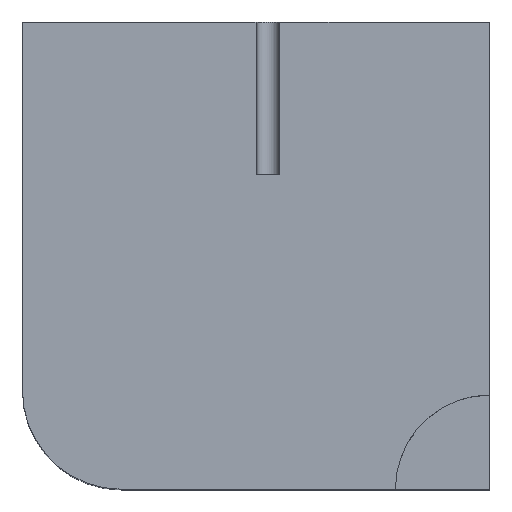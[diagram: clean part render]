
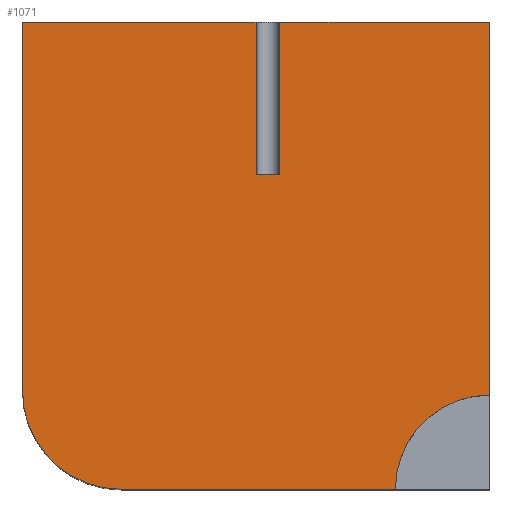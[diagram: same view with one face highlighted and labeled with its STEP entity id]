
A CAD part, top view. The second image highlights one B-rep face of the part: STEP entity #1071.
In plain terms, the highlighted planar face has unit normal (0, 0, 1).
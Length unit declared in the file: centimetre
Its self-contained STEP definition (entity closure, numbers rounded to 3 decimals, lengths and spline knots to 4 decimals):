
#10 = VECTOR ( 'NONE', #549, 100. ) ;
#21 = VERTEX_POINT ( 'NONE', #698 ) ;
#37 = LINE ( 'NONE', #1153, #621 ) ;
#56 = ORIENTED_EDGE ( 'NONE', *, *, #312, .T. ) ;
#93 = FACE_OUTER_BOUND ( 'NONE', #148, .T. ) ;
#108 = VECTOR ( 'NONE', #509, 100. ) ;
#125 = ORIENTED_EDGE ( 'NONE', *, *, #525, .T. ) ;
#131 = VERTEX_POINT ( 'NONE', #1120 ) ;
#132 = DIRECTION ( 'NONE',  ( 1., 0., 0. ) ) ;
#148 = EDGE_LOOP ( 'NONE', ( #224, #125, #1141, #1003, #1023, #1093, #685, #804, #56, #993 ) ) ;
#149 = CARTESIAN_POINT ( 'NONE',  ( 0., 673.7985, 1000. ) ) ;
#188 = LINE ( 'NONE', #283, #10 ) ;
#194 = CARTESIAN_POINT ( 'NONE',  ( 1000., 1000., 1000. ) ) ;
#198 = EDGE_CURVE ( 'NONE', #131, #1016, #232, .T. ) ;
#204 = VECTOR ( 'NONE', #788, 100. ) ;
#224 = ORIENTED_EDGE ( 'NONE', *, *, #649, .F. ) ;
#232 = LINE ( 'NONE', #1042, #108 ) ;
#262 = DIRECTION ( 'NONE',  ( 1., 0., 0. ) ) ;
#278 = EDGE_CURVE ( 'NONE', #1051, #878, #37, .T. ) ;
#283 = CARTESIAN_POINT ( 'NONE',  ( 0., 1000., 1000. ) ) ;
#303 = EDGE_CURVE ( 'NONE', #1164, #878, #763, .T. ) ;
#312 = EDGE_CURVE ( 'NONE', #1016, #590, #657, .T. ) ;
#313 = DIRECTION ( 'NONE',  ( -1., 0., 0. ) ) ;
#338 = CARTESIAN_POINT ( 'NONE',  ( 550.9847, 673.7985, 1000. ) ) ;
#353 = EDGE_CURVE ( 'NONE', #590, #574, #794, .T. ) ;
#401 = LINE ( 'NONE', #764, #992 ) ;
#420 = DIRECTION ( 'NONE',  ( 0., 0., 1. ) ) ;
#429 = VECTOR ( 'NONE', #313, 100. ) ;
#455 = VERTEX_POINT ( 'NONE', #1083 ) ;
#456 = PLANE ( 'NONE',  #931 ) ;
#509 = DIRECTION ( 'NONE',  ( 0., -1., 0. ) ) ;
#511 = DIRECTION ( 'NONE',  ( -1., 0., 0. ) ) ;
#525 = EDGE_CURVE ( 'NONE', #455, #1164, #1182, .T. ) ;
#549 = DIRECTION ( 'NONE',  ( -1., 0., 0. ) ) ;
#568 = CARTESIAN_POINT ( 'NONE',  ( 500., 673.7985, 1000. ) ) ;
#574 = VERTEX_POINT ( 'NONE', #725 ) ;
#588 = CARTESIAN_POINT ( 'NONE',  ( 550.9847, 1000., 1000. ) ) ;
#590 = VERTEX_POINT ( 'NONE', #1101 ) ;
#595 = AXIS2_PLACEMENT_3D ( 'NONE', #676, #1038, #132 ) ;
#610 = VECTOR ( 'NONE', #511, 100. ) ;
#621 = VECTOR ( 'NONE', #776, 100. ) ;
#627 = EDGE_CURVE ( 'NONE', #21, #131, #188, .T. ) ;
#649 = EDGE_CURVE ( 'NONE', #455, #574, #937, .T. ) ;
#653 = CARTESIAN_POINT ( 'NONE',  ( 1000., 1000., 1000. ) ) ;
#657 = CIRCLE ( 'NONE', #595, 211.0945 ) ;
#676 = CARTESIAN_POINT ( 'NONE',  ( 211.0945, 211.0945, 1000. ) ) ;
#685 = ORIENTED_EDGE ( 'NONE', *, *, #627, .T. ) ;
#698 = CARTESIAN_POINT ( 'NONE',  ( 500., 1000., 1000. ) ) ;
#715 = CARTESIAN_POINT ( 'NONE',  ( 1000., 0., 1000. ) ) ;
#725 = CARTESIAN_POINT ( 'NONE',  ( 798.2683, 0., 1000. ) ) ;
#735 = VECTOR ( 'NONE', #898, 100. ) ;
#763 = LINE ( 'NONE', #1132, #429 ) ;
#764 = CARTESIAN_POINT ( 'NONE',  ( 500., 673.7985, 1000. ) ) ;
#776 = DIRECTION ( 'NONE',  ( 0., 1., 0. ) ) ;
#788 = DIRECTION ( 'NONE',  ( 1., 0., 0. ) ) ;
#790 = CARTESIAN_POINT ( 'NONE',  ( 0., 211.0945, 1000. ) ) ;
#794 = LINE ( 'NONE', #988, #204 ) ;
#804 = ORIENTED_EDGE ( 'NONE', *, *, #198, .T. ) ;
#817 = CARTESIAN_POINT ( 'NONE',  ( 0., 0., 1000. ) ) ;
#858 = AXIS2_PLACEMENT_3D ( 'NONE', #715, #1081, #262 ) ;
#878 = VERTEX_POINT ( 'NONE', #588 ) ;
#898 = DIRECTION ( 'NONE',  ( 0., 1., 0. ) ) ;
#931 = AXIS2_PLACEMENT_3D ( 'NONE', #817, #420, #1094 ) ;
#937 = CIRCLE ( 'NONE', #858, 201.7317 ) ;
#943 = EDGE_CURVE ( 'NONE', #954, #21, #401, .T. ) ;
#954 = VERTEX_POINT ( 'NONE', #568 ) ;
#964 = LINE ( 'NONE', #149, #610 ) ;
#988 = CARTESIAN_POINT ( 'NONE',  ( 0., 0., 1000. ) ) ;
#992 = VECTOR ( 'NONE', #1133, 100. ) ;
#993 = ORIENTED_EDGE ( 'NONE', *, *, #353, .T. ) ;
#1003 = ORIENTED_EDGE ( 'NONE', *, *, #278, .F. ) ;
#1016 = VERTEX_POINT ( 'NONE', #790 ) ;
#1023 = ORIENTED_EDGE ( 'NONE', *, *, #1084, .T. ) ;
#1038 = DIRECTION ( 'NONE',  ( 0., 0., 1. ) ) ;
#1042 = CARTESIAN_POINT ( 'NONE',  ( 0., 1000., 1000. ) ) ;
#1051 = VERTEX_POINT ( 'NONE', #338 ) ;
#1071 = ADVANCED_FACE ( 'NONE', ( #93 ), #456, .T. ) ;
#1081 = DIRECTION ( 'NONE',  ( 0., 0., 1. ) ) ;
#1083 = CARTESIAN_POINT ( 'NONE',  ( 1000., 201.7317, 1000. ) ) ;
#1084 = EDGE_CURVE ( 'NONE', #1051, #954, #964, .T. ) ;
#1093 = ORIENTED_EDGE ( 'NONE', *, *, #943, .T. ) ;
#1094 = DIRECTION ( 'NONE',  ( 1., 0., 0. ) ) ;
#1101 = CARTESIAN_POINT ( 'NONE',  ( 211.0945, 0., 1000. ) ) ;
#1120 = CARTESIAN_POINT ( 'NONE',  ( 0., 1000., 1000. ) ) ;
#1132 = CARTESIAN_POINT ( 'NONE',  ( 0., 1000., 1000. ) ) ;
#1133 = DIRECTION ( 'NONE',  ( 0., 1., 0. ) ) ;
#1141 = ORIENTED_EDGE ( 'NONE', *, *, #303, .T. ) ;
#1153 = CARTESIAN_POINT ( 'NONE',  ( 550.9847, 673.7985, 1000. ) ) ;
#1164 = VERTEX_POINT ( 'NONE', #653 ) ;
#1182 = LINE ( 'NONE', #194, #735 ) ;
